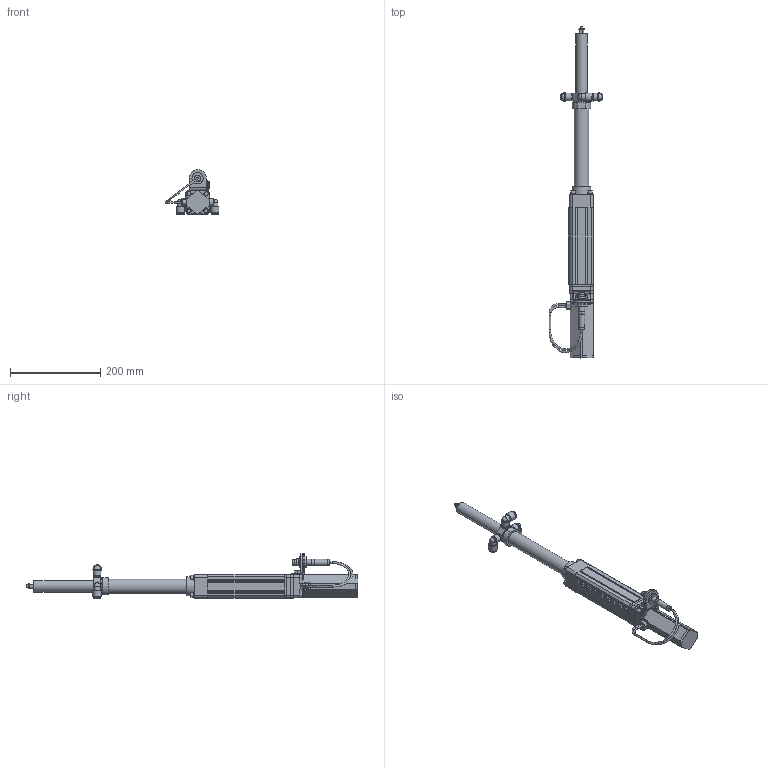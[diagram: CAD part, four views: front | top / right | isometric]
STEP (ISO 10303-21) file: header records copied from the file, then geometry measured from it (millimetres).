
FILE_DESCRIPTION(/* description */ (''),/* implementation_level */ '2;1');
FILE_NAME(/* name */ 'ASSY,VFIA,90MM,40MM BORE,S2 (622-92141) STEP FILE - REV C.stp',/* time_stamp */ '2026-03-25T13:10:36-04:00',/* author */ ('ASSY,VFIA,90MM,40MM BORE,S2'),/* organization */ ('CenterLine (Windsor) Limited'),/* preprocessor_version */ 'ST-DEVELOPER v20',/* originating_system */ 'Autodesk Inventor 2024',/* authorisation */ '');
FILE_SCHEMA (('AUTOMOTIVE_DESIGN { 1 0 10303 214 3 1 1 }'));
Length unit declared in the file: centimetre
Products named in the file (3): Assembly4; [Primary]_ASSY,VFIA,90MM,40MM BORE,S2; TOP_ASSY,VFIA,90MM,40MM BORE,S2
Assembly tree (2 placements, depth 2):
  Assembly4
    [Primary]_ASSY,VFIA,90MM,40MM BORE,S2
    TOP_ASSY,VFIA,90MM,40MM BORE,S2
Bounding box: 119.41 x 734.8 x 98.66 mm (x, y, z)
Volume: 2275410 mm3; surface area: 288377.7 mm2
Topology: 2 solids, 2 shells, 679 faces, 1576 edges, 975 vertices
Faces by surface type: plane 350, cylinder 170, cone 137, torus 16, sphere 6
Full cylindrical faces by diameter (mm): 3.5 x6, 5.5 x4, 6 x5, 10 x16, 10.8 x12, 10.92 x2, 11.1 x6, 12 x2, 13.44 x2, 16 x3, 16.5 x6, 17 x6, 18.5 x6, 25 x4, 25.4 x2, 31.75 x2, 36.576 x2, 41.402 x2
Entity records: 19394 total; most frequent: CARTESIAN_POINT 3859, DIRECTION 3377, ORIENTED_EDGE 3128, EDGE_CURVE 1564, AXIS2_PLACEMENT_3D 1317, VERTEX_POINT 975, EDGE_LOOP 777, LINE 743
